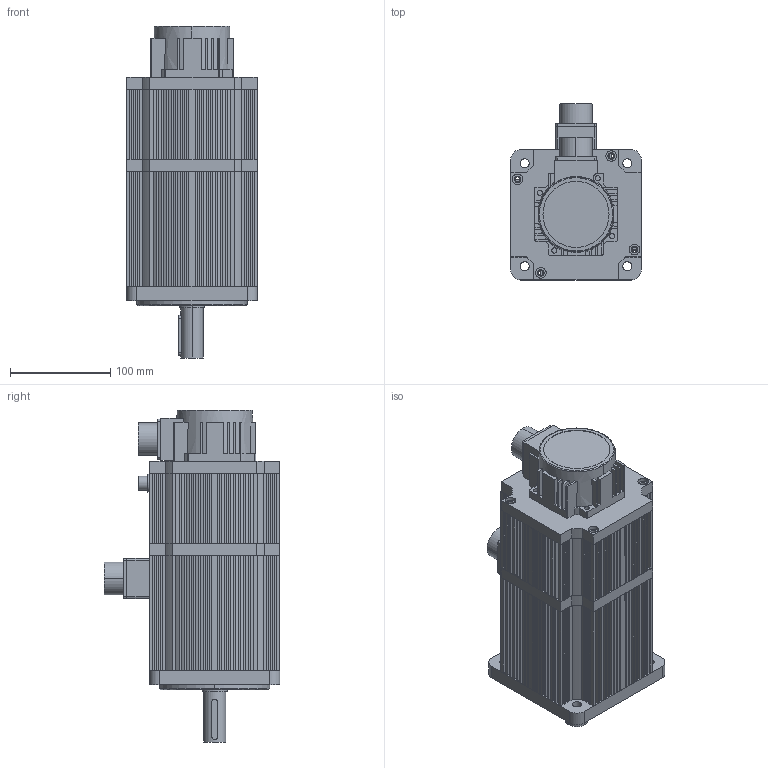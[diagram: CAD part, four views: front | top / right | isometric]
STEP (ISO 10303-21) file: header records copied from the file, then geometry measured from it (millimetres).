
FILE_DESCRIPTION (( 'STEP AP203' ), '1' );
FILE_NAME ('ASMJ-13-2025B-G342-01.STEP', '2024-04-10T06:12:30', ( 'Admin' ), ( '' ), 'SwSTEP 2.0', 'SolidWorks 2018', '' );
FILE_SCHEMA (( 'CONFIG_CONTROL_DESIGN' ));
Length unit declared in the file: millimetre
Products named in the file (1): ASMJ-13-2025B-G342-01
Bounding box: 130 x 175.3 x 331 mm (x, y, z)
Volume: 1063775.5 mm3; surface area: 530528.8 mm2
Topology: 13 solids, 13 shells, 1311 faces, 3655 edges, 2376 vertices
Faces by surface type: plane 807, cylinder 434, bspline 52, cone 18
Entity records: 43931 total; most frequent: CARTESIAN_POINT 9924, ORIENTED_EDGE 7174, DIRECTION 6913, EDGE_CURVE 3587, VECTOR 2545, LINE 2545, VERTEX_POINT 2376, AXIS2_PLACEMENT_3D 2184
